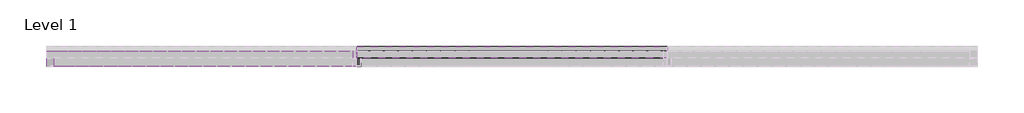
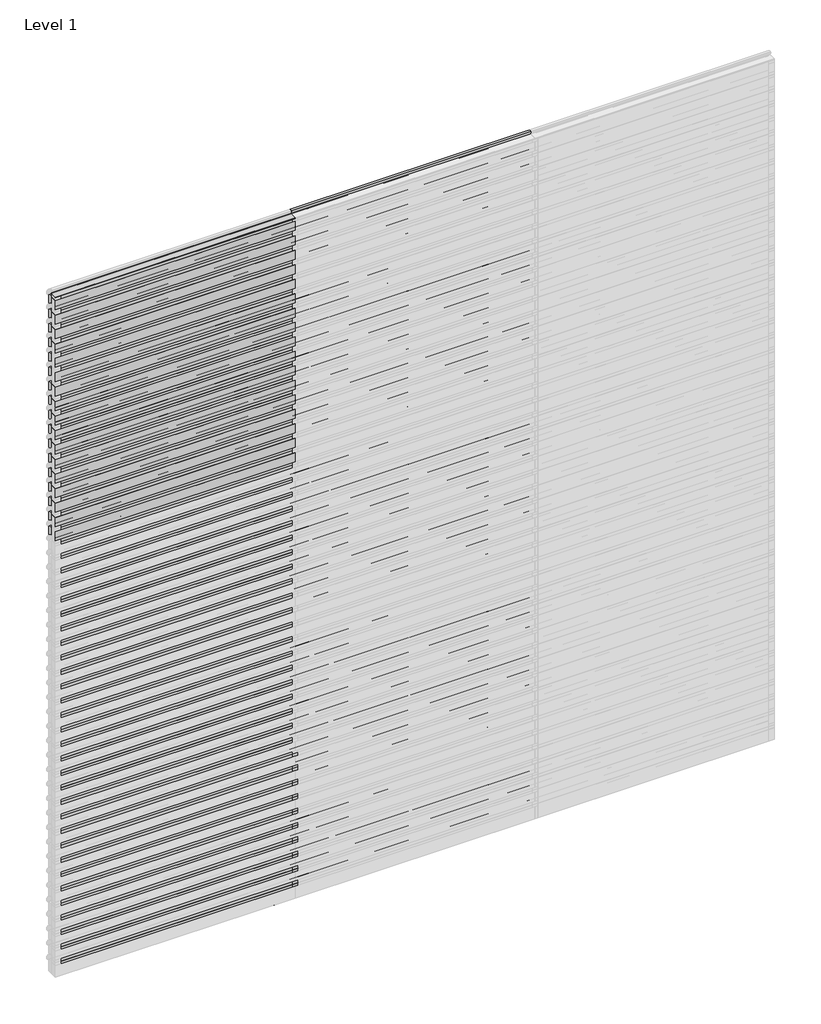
# One storey, part 2 of 5: 65 plates, 57 members.
"""IFC4 building model written with IfcOpenShell, lengths in millimetres."""

from ifc_helpers import new_model, si_unit, origin, place, context, project, spatial, transform, mapped, element, save
from components import rectangular_mullion_d23d7044, rectangular_mullion_172e3795, empty_system_panel_empty_a5cbaad0, empty_system_panel_empty_3140acd4, empty_system_panel_empty_c620d78e

model = new_model("IFC4")

# Units and contexts
model_context = context("Model", 3, world=origin())
ifc_project = project(units=[si_unit("LENGTHUNIT", "METRE", prefix="MILLI")], contexts=[model_context])

# Site, building, storey
site = spatial("IfcSite", under=ifc_project)
building = spatial("IfcBuilding", under=site)
storey = spatial("IfcBuildingStorey", under=building, Name="Level 1", Elevation=0.0)

# Members
placement = place(None, origin())
rectangular_mullion_shape = rectangular_mullion_d23d7044(model_context)
element("IfcMember", 1, ObjectType="Rectangular Mullion : RSen_21_CWM_blade - 100 D_gen_duco projects", at=placement, inside=storey, context=model_context, shape_type="MappedRepresentation", body=[
    mapped(rectangular_mullion_shape, transform((2000.0, 3000.0, 127.5), x_axis=(0.0, 0.0, 1.0), y_axis=(0.0, 1.0, 0.0), z_axis=(-1.0, 0.0, 0.0))),
])
element("IfcMember", 2, ObjectType="Rectangular Mullion : RSen_21_CWM_blade - 100 D_gen_duco projects", at=placement, inside=storey, context=model_context, shape_type="MappedRepresentation", body=[
    mapped(rectangular_mullion_shape, transform((2000.0, 3000.0, 255.0), x_axis=(0.0, 0.0, 1.0), y_axis=(0.0, 1.0, 0.0), z_axis=(-1.0, 0.0, 0.0))),
])
element("IfcMember", 3, ObjectType="Rectangular Mullion : RSen_21_CWM_blade - 100 D_gen_duco projects", at=placement, inside=storey, context=model_context, shape_type="MappedRepresentation", body=[
    mapped(rectangular_mullion_shape, transform((2000.0, 3000.0, 382.5), x_axis=(0.0, 0.0, 1.0), y_axis=(0.0, 1.0, 0.0), z_axis=(-1.0, 0.0, 0.0))),
])
element("IfcMember", 4, ObjectType="Rectangular Mullion : RSen_21_CWM_blade - 100 D_gen_duco projects", at=placement, inside=storey, context=model_context, shape_type="MappedRepresentation", body=[
    mapped(rectangular_mullion_shape, transform((2000.0, 3000.0, 510.0), x_axis=(0.0, 0.0, 1.0), y_axis=(0.0, 1.0, 0.0), z_axis=(-1.0, 0.0, 0.0))),
])
element("IfcMember", 5, ObjectType="Rectangular Mullion : RSen_21_CWM_blade - 100 D_gen_duco projects", at=placement, inside=storey, context=model_context, shape_type="MappedRepresentation", body=[
    mapped(rectangular_mullion_shape, transform((2000.0, 3000.0, 637.5), x_axis=(0.0, 0.0, 1.0), y_axis=(0.0, 1.0, 0.0), z_axis=(-1.0, 0.0, 0.0))),
])
element("IfcMember", 6, ObjectType="Rectangular Mullion : RSen_21_CWM_blade - 100 D_gen_duco projects", at=placement, inside=storey, context=model_context, shape_type="MappedRepresentation", body=[
    mapped(rectangular_mullion_shape, transform((2000.0, 3000.0, 765.0), x_axis=(0.0, 0.0, 1.0), y_axis=(0.0, 1.0, 0.0), z_axis=(-1.0, 0.0, 0.0))),
])
element("IfcMember", 7, ObjectType="Rectangular Mullion : RSen_21_CWM_blade - 100 D_gen_duco projects", at=placement, inside=storey, context=model_context, shape_type="MappedRepresentation", body=[
    mapped(rectangular_mullion_shape, transform((2000.0, 3000.0, 892.5), x_axis=(0.0, 0.0, 1.0), y_axis=(0.0, 1.0, 0.0), z_axis=(-1.0, 0.0, 0.0))),
])
element("IfcMember", 8, ObjectType="Rectangular Mullion : RSen_21_CWM_blade - 100 D_gen_duco projects", at=placement, inside=storey, context=model_context, shape_type="MappedRepresentation", body=[
    mapped(rectangular_mullion_shape, transform((2000.0, 3000.0, 1020.0), x_axis=(0.0, 0.0, 1.0), y_axis=(0.0, 1.0, 0.0), z_axis=(-1.0, 0.0, 0.0))),
])
element("IfcMember", 9, ObjectType="Rectangular Mullion : RSen_21_CWM_blade - 100 D_gen_duco projects", at=placement, inside=storey, context=model_context, shape_type="MappedRepresentation", body=[
    mapped(rectangular_mullion_shape, transform((2000.0, 3000.0, 1147.5), x_axis=(0.0, 0.0, 1.0), y_axis=(0.0, 1.0, 0.0), z_axis=(-1.0, 0.0, 0.0))),
])
element("IfcMember", 10, ObjectType="Rectangular Mullion : RSen_21_CWM_blade - 100 D_gen_duco projects", at=placement, inside=storey, context=model_context, shape_type="MappedRepresentation", body=[
    mapped(rectangular_mullion_shape, transform((2000.0, 3000.0, 1275.0), x_axis=(0.0, 0.0, 1.0), y_axis=(0.0, 1.0, 0.0), z_axis=(-1.0, 0.0, 0.0))),
])
element("IfcMember", 11, ObjectType="Rectangular Mullion : RSen_21_CWM_blade - 100 D_gen_duco projects", at=placement, inside=storey, context=model_context, shape_type="MappedRepresentation", body=[
    mapped(rectangular_mullion_shape, transform((2000.0, 3000.0, 1402.5), x_axis=(0.0, 0.0, 1.0), y_axis=(0.0, 1.0, 0.0), z_axis=(-1.0, 0.0, 0.0))),
])
element("IfcMember", 12, ObjectType="Rectangular Mullion : RSen_21_CWM_blade - 100 D_gen_duco projects", at=placement, inside=storey, context=model_context, shape_type="MappedRepresentation", body=[
    mapped(rectangular_mullion_shape, transform((2000.0, 3000.0, 1530.0), x_axis=(0.0, 0.0, 1.0), y_axis=(0.0, 1.0, 0.0), z_axis=(-1.0, 0.0, 0.0))),
])
element("IfcMember", 13, ObjectType="Rectangular Mullion : RSen_21_CWM_blade - 100 D_gen_duco projects", at=placement, inside=storey, context=model_context, shape_type="MappedRepresentation", body=[
    mapped(rectangular_mullion_shape, transform((2000.0, 3000.0, 1657.5), x_axis=(0.0, 0.0, 1.0), y_axis=(0.0, 1.0, 0.0), z_axis=(-1.0, 0.0, 0.0))),
])
element("IfcMember", 14, ObjectType="Rectangular Mullion : RSen_21_CWM_blade - 100 D_gen_duco projects", at=placement, inside=storey, context=model_context, shape_type="MappedRepresentation", body=[
    mapped(rectangular_mullion_shape, transform((2000.0, 3000.0, 1785.0), x_axis=(0.0, 0.0, 1.0), y_axis=(0.0, 1.0, 0.0), z_axis=(-1.0, 0.0, 0.0))),
])
element("IfcMember", 15, ObjectType="Rectangular Mullion : RSen_21_CWM_blade - 100 D_gen_duco projects", at=placement, inside=storey, context=model_context, shape_type="MappedRepresentation", body=[
    mapped(rectangular_mullion_shape, transform((2000.0, 3000.0, 1912.5), x_axis=(0.0, 0.0, 1.0), y_axis=(0.0, 1.0, 0.0), z_axis=(-1.0, 0.0, 0.0))),
])
element("IfcMember", 16, ObjectType="Rectangular Mullion : RSen_21_CWM_blade - 100 D_gen_duco projects", at=placement, inside=storey, context=model_context, shape_type="MappedRepresentation", body=[
    mapped(rectangular_mullion_shape, transform((2000.0, 3000.0, 2040.0), x_axis=(0.0, 0.0, 1.0), y_axis=(0.0, 1.0, 0.0), z_axis=(-1.0, 0.0, 0.0))),
])
element("IfcMember", 17, ObjectType="Rectangular Mullion : RSen_21_CWM_blade - 100 D_gen_duco projects", at=placement, inside=storey, context=model_context, shape_type="MappedRepresentation", body=[
    mapped(rectangular_mullion_shape, transform((2000.0, 3000.0, 2167.5), x_axis=(0.0, 0.0, 1.0), y_axis=(0.0, 1.0, 0.0), z_axis=(-1.0, 0.0, 0.0))),
])
element("IfcMember", 18, ObjectType="Rectangular Mullion : RSen_21_CWM_blade - 100 D_gen_duco projects", at=placement, inside=storey, context=model_context, shape_type="MappedRepresentation", body=[
    mapped(rectangular_mullion_shape, transform((2000.0, 3000.0, 2295.0), x_axis=(0.0, 0.0, 1.0), y_axis=(0.0, 1.0, 0.0), z_axis=(-1.0, 0.0, 0.0))),
])
element("IfcMember", 19, ObjectType="Rectangular Mullion : RSen_21_CWM_blade - 100 D_gen_duco projects", at=placement, inside=storey, context=model_context, shape_type="MappedRepresentation", body=[
    mapped(rectangular_mullion_shape, transform((2000.0, 3000.0, 2422.5), x_axis=(0.0, 0.0, 1.0), y_axis=(0.0, 1.0, 0.0), z_axis=(-1.0, 0.0, 0.0))),
])
element("IfcMember", 20, ObjectType="Rectangular Mullion : RSen_21_CWM_blade - 100 D_gen_duco projects", at=placement, inside=storey, context=model_context, shape_type="MappedRepresentation", body=[
    mapped(rectangular_mullion_shape, transform((2000.0, 3000.0, 2550.0), x_axis=(0.0, 0.0, 1.0), y_axis=(0.0, 1.0, 0.0), z_axis=(-1.0, 0.0, 0.0))),
])
element("IfcMember", 21, ObjectType="Rectangular Mullion : RSen_21_CWM_blade - 100 D_gen_duco projects", at=placement, inside=storey, context=model_context, shape_type="MappedRepresentation", body=[
    mapped(rectangular_mullion_shape, transform((2000.0, 3000.0, 2677.5), x_axis=(0.0, 0.0, 1.0), y_axis=(0.0, 1.0, 0.0), z_axis=(-1.0, 0.0, 0.0))),
])
element("IfcMember", 22, ObjectType="Rectangular Mullion : RSen_21_CWM_blade - 100 D_gen_duco projects", at=placement, inside=storey, context=model_context, shape_type="MappedRepresentation", body=[
    mapped(rectangular_mullion_shape, transform((2000.0, 3000.0, 2805.0), x_axis=(0.0, 0.0, 1.0), y_axis=(0.0, 1.0, 0.0), z_axis=(-1.0, 0.0, 0.0))),
])
element("IfcMember", 23, ObjectType="Rectangular Mullion : RSen_21_CWM_blade - 100 D_gen_duco projects", at=placement, inside=storey, context=model_context, shape_type="MappedRepresentation", body=[
    mapped(rectangular_mullion_shape, transform((2000.0, 3000.0, 2932.5), x_axis=(0.0, 0.0, 1.0), y_axis=(0.0, 1.0, 0.0), z_axis=(-1.0, 0.0, 0.0))),
])
element("IfcMember", 24, ObjectType="Rectangular Mullion : RSen_21_CWM_blade - 100 D_gen_duco projects", at=placement, inside=storey, context=model_context, shape_type="MappedRepresentation", body=[
    mapped(rectangular_mullion_shape, transform((2000.0, 3000.0, 3060.0), x_axis=(0.0, 0.0, 1.0), y_axis=(0.0, 1.0, 0.0), z_axis=(-1.0, 0.0, 0.0))),
])
element("IfcMember", 25, ObjectType="Rectangular Mullion : RSen_21_CWM_blade - 100 D_gen_duco projects", at=placement, inside=storey, context=model_context, shape_type="MappedRepresentation", body=[
    mapped(rectangular_mullion_shape, transform((2000.0, 3000.0, 3187.5), x_axis=(0.0, 0.0, 1.0), y_axis=(0.0, 1.0, 0.0), z_axis=(-1.0, 0.0, 0.0))),
])
element("IfcMember", 26, ObjectType="Rectangular Mullion : RSen_21_CWM_blade - 100 D_gen_duco projects", at=placement, inside=storey, context=model_context, shape_type="MappedRepresentation", body=[
    mapped(rectangular_mullion_shape, transform((2000.0, 3000.0, 3315.0), x_axis=(0.0, 0.0, 1.0), y_axis=(0.0, 1.0, 0.0), z_axis=(-1.0, 0.0, 0.0))),
])
element("IfcMember", 27, ObjectType="Rectangular Mullion : RSen_21_CWM_blade - 100 D_gen_duco projects", at=placement, inside=storey, context=model_context, shape_type="MappedRepresentation", body=[
    mapped(rectangular_mullion_shape, transform((2000.0, 3000.0, 3442.5), x_axis=(0.0, 0.0, 1.0), y_axis=(0.0, 1.0, 0.0), z_axis=(-1.0, 0.0, 0.0))),
])
element("IfcMember", 28, ObjectType="Rectangular Mullion : RSen_21_CWM_blade - 100 D_gen_duco projects", at=placement, inside=storey, context=model_context, shape_type="MappedRepresentation", body=[
    mapped(rectangular_mullion_shape, transform((2000.0, 3000.0, 3570.0), x_axis=(0.0, 0.0, 1.0), y_axis=(0.0, 1.0, 0.0), z_axis=(-1.0, 0.0, 0.0))),
])
element("IfcMember", 29, ObjectType="Rectangular Mullion : RSen_21_CWM_blade - 100 D_gen_duco projects", at=placement, inside=storey, context=model_context, shape_type="MappedRepresentation", body=[
    mapped(rectangular_mullion_shape, transform((2000.0, 3000.0, 3697.5), x_axis=(0.0, 0.0, 1.0), y_axis=(0.0, 1.0, 0.0), z_axis=(-1.0, 0.0, 0.0))),
])
element("IfcMember", 30, ObjectType="Rectangular Mullion : RSen_21_CWM_blade - 100 D_gen_duco projects", at=placement, inside=storey, context=model_context, shape_type="MappedRepresentation", body=[
    mapped(rectangular_mullion_shape, transform((2000.0, 3000.0, 3825.0), x_axis=(0.0, 0.0, 1.0), y_axis=(0.0, 1.0, 0.0), z_axis=(-1.0, 0.0, 0.0))),
])
element("IfcMember", 31, ObjectType="Rectangular Mullion : RSen_21_CWM_blade - 100 D_gen_duco projects", at=placement, inside=storey, context=model_context, shape_type="MappedRepresentation", body=[
    mapped(rectangular_mullion_shape, transform((2000.0, 3000.0, 3952.5), x_axis=(0.0, 0.0, 1.0), y_axis=(0.0, 1.0, 0.0), z_axis=(-1.0, 0.0, 0.0))),
])
element("IfcMember", 32, ObjectType="Rectangular Mullion : RSen_21_CWM_blade - 100 D_gen_duco projects", at=placement, inside=storey, context=model_context, shape_type="MappedRepresentation", body=[
    mapped(rectangular_mullion_shape, transform((2000.0, 3000.0, 4080.0), x_axis=(0.0, 0.0, 1.0), y_axis=(0.0, 1.0, 0.0), z_axis=(-1.0, 0.0, 0.0))),
])
element("IfcMember", 33, ObjectType="Rectangular Mullion : RSen_21_CWM_blade - 100 D_gen_duco projects", at=placement, inside=storey, context=model_context, shape_type="MappedRepresentation", body=[
    mapped(rectangular_mullion_shape, transform((2000.0, 3000.0, 4207.5), x_axis=(0.0, 0.0, 1.0), y_axis=(0.0, 1.0, 0.0), z_axis=(-1.0, 0.0, 0.0))),
])
element("IfcMember", 34, ObjectType="Rectangular Mullion : RSen_21_CWM_blade - 100 D_gen_duco projects", at=placement, inside=storey, context=model_context, shape_type="MappedRepresentation", body=[
    mapped(rectangular_mullion_shape, transform((2000.0, 3000.0, 4335.0), x_axis=(0.0, 0.0, 1.0), y_axis=(0.0, 1.0, 0.0), z_axis=(-1.0, 0.0, 0.0))),
])
element("IfcMember", 35, ObjectType="Rectangular Mullion : RSen_21_CWM_blade - 100 D_gen_duco projects", at=placement, inside=storey, context=model_context, shape_type="MappedRepresentation", body=[
    mapped(rectangular_mullion_shape, transform((2000.0, 3000.0, 4462.5), x_axis=(0.0, 0.0, 1.0), y_axis=(0.0, 1.0, 0.0), z_axis=(-1.0, 0.0, 0.0))),
])
element("IfcMember", 36, ObjectType="Rectangular Mullion : RSen_21_CWM_blade - 100 D_gen_duco projects", at=placement, inside=storey, context=model_context, shape_type="MappedRepresentation", body=[
    mapped(rectangular_mullion_shape, transform((2000.0, 3000.0, 4590.0), x_axis=(0.0, 0.0, 1.0), y_axis=(0.0, 1.0, 0.0), z_axis=(-1.0, 0.0, 0.0))),
])
element("IfcMember", 37, ObjectType="Rectangular Mullion : RSen_21_CWM_blade - 100 D_gen_duco projects", at=placement, inside=storey, context=model_context, shape_type="MappedRepresentation", body=[
    mapped(rectangular_mullion_shape, transform((2000.0, 3000.0, 4717.5), x_axis=(0.0, 0.0, 1.0), y_axis=(0.0, 1.0, 0.0), z_axis=(-1.0, 0.0, 0.0))),
])
element("IfcMember", 38, ObjectType="Rectangular Mullion : RSen_21_CWM_blade - 100 D_gen_duco projects", at=placement, inside=storey, context=model_context, shape_type="MappedRepresentation", body=[
    mapped(rectangular_mullion_shape, transform((2000.0, 3000.0, 4845.0), x_axis=(0.0, 0.0, 1.0), y_axis=(0.0, 1.0, 0.0), z_axis=(-1.0, 0.0, 0.0))),
])
element("IfcMember", 39, ObjectType="Rectangular Mullion : RSen_21_CWM_blade - 100 D_gen_duco projects", at=placement, inside=storey, context=model_context, shape_type="MappedRepresentation", body=[
    mapped(rectangular_mullion_shape, transform((2000.0, 3000.0, 4972.5), x_axis=(0.0, 0.0, 1.0), y_axis=(0.0, 1.0, 0.0), z_axis=(-1.0, 0.0, 0.0))),
])
element("IfcMember", 40, ObjectType="Rectangular Mullion : RSen_21_CWM_blade - 100 D_gen_duco projects", at=placement, inside=storey, context=model_context, shape_type="MappedRepresentation", body=[
    mapped(rectangular_mullion_shape, transform((2000.0, 3000.0, 5100.0), x_axis=(0.0, 0.0, 1.0), y_axis=(0.0, 1.0, 0.0), z_axis=(-1.0, 0.0, 0.0))),
])
element("IfcMember", 41, ObjectType="Rectangular Mullion : RSen_21_CWM_blade - 100 D_gen_duco projects", at=placement, inside=storey, context=model_context, shape_type="MappedRepresentation", body=[
    mapped(rectangular_mullion_shape, transform((2000.0, 3000.0, 5227.5), x_axis=(0.0, 0.0, 1.0), y_axis=(0.0, 1.0, 0.0), z_axis=(-1.0, 0.0, 0.0))),
])
element("IfcMember", 42, ObjectType="Rectangular Mullion : RSen_21_CWM_blade - 100 D_gen_duco projects", at=placement, inside=storey, context=model_context, shape_type="MappedRepresentation", body=[
    mapped(rectangular_mullion_shape, transform((2000.0, 3000.0, 5355.0), x_axis=(0.0, 0.0, 1.0), y_axis=(0.0, 1.0, 0.0), z_axis=(-1.0, 0.0, 0.0))),
])
element("IfcMember", 43, ObjectType="Rectangular Mullion : RSen_21_CWM_blade - 100 D_gen_duco projects", at=placement, inside=storey, context=model_context, shape_type="MappedRepresentation", body=[
    mapped(rectangular_mullion_shape, transform((2000.0, 3000.0, 5482.5), x_axis=(0.0, 0.0, 1.0), y_axis=(0.0, 1.0, 0.0), z_axis=(-1.0, 0.0, 0.0))),
])
element("IfcMember", 44, ObjectType="Rectangular Mullion : RSen_21_CWM_blade - 100 D_gen_duco projects", at=placement, inside=storey, context=model_context, shape_type="MappedRepresentation", body=[
    mapped(rectangular_mullion_shape, transform((2000.0, 3000.0, 5610.0), x_axis=(0.0, 0.0, 1.0), y_axis=(0.0, 1.0, 0.0), z_axis=(-1.0, 0.0, 0.0))),
])
element("IfcMember", 45, ObjectType="Rectangular Mullion : RSen_21_CWM_blade - 100 D_gen_duco projects", at=placement, inside=storey, context=model_context, shape_type="MappedRepresentation", body=[
    mapped(rectangular_mullion_shape, transform((2000.0, 3000.0, 5737.5), x_axis=(0.0, 0.0, 1.0), y_axis=(0.0, 1.0, 0.0), z_axis=(-1.0, 0.0, 0.0))),
])
element("IfcMember", 46, ObjectType="Rectangular Mullion : RSen_21_CWM_blade - 100 D_gen_duco projects", at=placement, inside=storey, context=model_context, shape_type="MappedRepresentation", body=[
    mapped(rectangular_mullion_shape, transform((2000.0, 3000.0, 5865.0), x_axis=(0.0, 0.0, 1.0), y_axis=(0.0, 1.0, 0.0), z_axis=(-1.0, 0.0, 0.0))),
])
element("IfcMember", 47, ObjectType="Rectangular Mullion : RSen_21_CWM_blade - 100 D_gen_duco projects", at=placement, inside=storey, context=model_context, shape_type="MappedRepresentation", body=[
    mapped(rectangular_mullion_shape, transform((2000.0, 3000.0, 5992.5), x_axis=(0.0, 0.0, 1.0), y_axis=(0.0, 1.0, 0.0), z_axis=(-1.0, 0.0, 0.0))),
])
rectangular_mullion_2_shape = rectangular_mullion_172e3795(model_context)
element("IfcMember", 48, ObjectType="Rectangular Mullion : RSen_21_CWM_support profile 50x50_gen_duco projects", at=placement, inside=storey, context=model_context, shape_type="MappedRepresentation", body=[
    mapped(rectangular_mullion_2_shape, transform((2000.0, 3000.0, 0.0), x_axis=(-1.0, 0.0, 0.0), y_axis=(0.0, 1.0, 0.0), z_axis=(0.0, 0.0, -1.0))),
])
element("IfcMember", 49, ObjectType="Rectangular Mullion : RSen_21_CWM_support profile 50x50_gen_duco projects", at=placement, inside=storey, context=model_context, shape_type="MappedRepresentation", body=[
    mapped(rectangular_mullion_2_shape, transform((2000.0, 3000.0, 127.5), x_axis=(-1.0, 0.0, 0.0), y_axis=(0.0, 1.0, 0.0), z_axis=(0.0, 0.0, -1.0))),
])
element("IfcMember", 50, ObjectType="Rectangular Mullion : RSen_21_CWM_support profile 50x50_gen_duco projects", at=placement, inside=storey, context=model_context, shape_type="MappedRepresentation", body=[
    mapped(rectangular_mullion_2_shape, transform((2000.0, 3000.0, 255.0), x_axis=(-1.0, 0.0, 0.0), y_axis=(0.0, 1.0, 0.0), z_axis=(0.0, 0.0, -1.0))),
])
element("IfcMember", 51, ObjectType="Rectangular Mullion : RSen_21_CWM_support profile 50x50_gen_duco projects", at=placement, inside=storey, context=model_context, shape_type="MappedRepresentation", body=[
    mapped(rectangular_mullion_2_shape, transform((2000.0, 3000.0, 382.5), x_axis=(-1.0, 0.0, 0.0), y_axis=(0.0, 1.0, 0.0), z_axis=(0.0, 0.0, -1.0))),
])
element("IfcMember", 52, ObjectType="Rectangular Mullion : RSen_21_CWM_support profile 50x50_gen_duco projects", at=placement, inside=storey, context=model_context, shape_type="MappedRepresentation", body=[
    mapped(rectangular_mullion_2_shape, transform((2000.0, 3000.0, 510.0), x_axis=(-1.0, 0.0, 0.0), y_axis=(0.0, 1.0, 0.0), z_axis=(0.0, 0.0, -1.0))),
])
element("IfcMember", 53, ObjectType="Rectangular Mullion : RSen_21_CWM_support profile 50x50_gen_duco projects", at=placement, inside=storey, context=model_context, shape_type="MappedRepresentation", body=[
    mapped(rectangular_mullion_2_shape, transform((2000.0, 3000.0, 637.5), x_axis=(-1.0, 0.0, 0.0), y_axis=(0.0, 1.0, 0.0), z_axis=(0.0, 0.0, -1.0))),
])
element("IfcMember", 54, ObjectType="Rectangular Mullion : RSen_21_CWM_support profile 50x50_gen_duco projects", at=placement, inside=storey, context=model_context, shape_type="MappedRepresentation", body=[
    mapped(rectangular_mullion_2_shape, transform((2000.0, 3000.0, 765.0), x_axis=(-1.0, 0.0, 0.0), y_axis=(0.0, 1.0, 0.0), z_axis=(0.0, 0.0, -1.0))),
])
element("IfcMember", 55, ObjectType="Rectangular Mullion : RSen_21_CWM_support profile 50x50_gen_duco projects", at=placement, inside=storey, context=model_context, shape_type="MappedRepresentation", body=[
    mapped(rectangular_mullion_2_shape, transform((2000.0, 3000.0, 892.5), x_axis=(-1.0, 0.0, 0.0), y_axis=(0.0, 1.0, 0.0), z_axis=(0.0, 0.0, -1.0))),
])
element("IfcMember", 56, ObjectType="Rectangular Mullion : RSen_21_CWM_support profile 50x50_gen_duco projects", at=placement, inside=storey, context=model_context, shape_type="MappedRepresentation", body=[
    mapped(rectangular_mullion_2_shape, transform((2000.0, 3000.0, 1020.0), x_axis=(-1.0, 0.0, 0.0), y_axis=(0.0, 1.0, 0.0), z_axis=(0.0, 0.0, -1.0))),
])
element("IfcMember", 57, ObjectType="Rectangular Mullion : RSen_21_CWM_support profile 50x50_gen_duco projects", at=placement, inside=storey, context=model_context, shape_type="MappedRepresentation", body=[
    mapped(rectangular_mullion_2_shape, transform((2000.0, 3000.0, 1147.5), x_axis=(-1.0, 0.0, 0.0), y_axis=(0.0, 1.0, 0.0), z_axis=(0.0, 0.0, -1.0))),
])

# Plates
empty_system_panel_empty_shape = empty_system_panel_empty_a5cbaad0(model_context)
element("IfcPlate", 58, ObjectType="Empty System Panel : Empty", at=placement, inside=storey, context=model_context, shape_type="MappedRepresentation", body=[
    mapped(empty_system_panel_empty_shape, transform((1000.0, 3000.0, 3849.0416306), x_axis=(-1.0, 0.0, 0.0), y_axis=(0.0, -1.0, 0.0), z_axis=(0.0, 0.0, 1.0))),
])
element("IfcPlate", 59, ObjectType="Empty System Panel : Empty", at=placement, inside=storey, context=model_context, shape_type="MappedRepresentation", body=[
    mapped(empty_system_panel_empty_shape, transform((1000.0, 3000.0, 3976.5416306), x_axis=(-1.0, 0.0, 0.0), y_axis=(0.0, -1.0, 0.0), z_axis=(0.0, 0.0, 1.0))),
])
element("IfcPlate", 60, ObjectType="Empty System Panel : Empty", at=placement, inside=storey, context=model_context, shape_type="MappedRepresentation", body=[
    mapped(empty_system_panel_empty_shape, transform((1000.0, 3000.0, 4104.0416306), x_axis=(-1.0, 0.0, 0.0), y_axis=(0.0, -1.0, 0.0), z_axis=(0.0, 0.0, 1.0))),
])
element("IfcPlate", 61, ObjectType="Empty System Panel : Empty", at=placement, inside=storey, context=model_context, shape_type="MappedRepresentation", body=[
    mapped(empty_system_panel_empty_shape, transform((1000.0, 3000.0, 4231.5416306), x_axis=(-1.0, 0.0, 0.0), y_axis=(0.0, -1.0, 0.0), z_axis=(0.0, 0.0, 1.0))),
])
element("IfcPlate", 62, ObjectType="Empty System Panel : Empty", at=placement, inside=storey, context=model_context, shape_type="MappedRepresentation", body=[
    mapped(empty_system_panel_empty_shape, transform((1000.0, 3000.0, 4359.0416306), x_axis=(-1.0, 0.0, 0.0), y_axis=(0.0, -1.0, 0.0), z_axis=(0.0, 0.0, 1.0))),
])
element("IfcPlate", 63, ObjectType="Empty System Panel : Empty", at=placement, inside=storey, context=model_context, shape_type="MappedRepresentation", body=[
    mapped(empty_system_panel_empty_shape, transform((1000.0, 3000.0, 4486.5416306), x_axis=(-1.0, 0.0, 0.0), y_axis=(0.0, -1.0, 0.0), z_axis=(0.0, 0.0, 1.0))),
])
element("IfcPlate", 64, ObjectType="Empty System Panel : Empty", at=placement, inside=storey, context=model_context, shape_type="MappedRepresentation", body=[
    mapped(empty_system_panel_empty_shape, transform((1000.0, 3000.0, 4614.0416306), x_axis=(-1.0, 0.0, 0.0), y_axis=(0.0, -1.0, 0.0), z_axis=(0.0, 0.0, 1.0))),
])
element("IfcPlate", 65, ObjectType="Empty System Panel : Empty", at=placement, inside=storey, context=model_context, shape_type="MappedRepresentation", body=[
    mapped(empty_system_panel_empty_shape, transform((1000.0, 3000.0, 4741.5416306), x_axis=(-1.0, 0.0, 0.0), y_axis=(0.0, -1.0, 0.0), z_axis=(0.0, 0.0, 1.0))),
])
element("IfcPlate", 66, ObjectType="Empty System Panel : Empty", at=placement, inside=storey, context=model_context, shape_type="MappedRepresentation", body=[
    mapped(empty_system_panel_empty_shape, transform((1000.0, 3000.0, 4869.0416306), x_axis=(-1.0, 0.0, 0.0), y_axis=(0.0, -1.0, 0.0), z_axis=(0.0, 0.0, 1.0))),
])
element("IfcPlate", 67, ObjectType="Empty System Panel : Empty", at=placement, inside=storey, context=model_context, shape_type="MappedRepresentation", body=[
    mapped(empty_system_panel_empty_shape, transform((1000.0, 3000.0, 4996.5416306), x_axis=(-1.0, 0.0, 0.0), y_axis=(0.0, -1.0, 0.0), z_axis=(0.0, 0.0, 1.0))),
])
element("IfcPlate", 68, ObjectType="Empty System Panel : Empty", at=placement, inside=storey, context=model_context, shape_type="MappedRepresentation", body=[
    mapped(empty_system_panel_empty_shape, transform((1000.0, 3000.0, 5124.0416306), x_axis=(-1.0, 0.0, 0.0), y_axis=(0.0, -1.0, 0.0), z_axis=(0.0, 0.0, 1.0))),
])
element("IfcPlate", 69, ObjectType="Empty System Panel : Empty", at=placement, inside=storey, context=model_context, shape_type="MappedRepresentation", body=[
    mapped(empty_system_panel_empty_shape, transform((1000.0, 3000.0, 5251.5416306), x_axis=(-1.0, 0.0, 0.0), y_axis=(0.0, -1.0, 0.0), z_axis=(0.0, 0.0, 1.0))),
])
element("IfcPlate", 70, ObjectType="Empty System Panel : Empty", at=placement, inside=storey, context=model_context, shape_type="MappedRepresentation", body=[
    mapped(empty_system_panel_empty_shape, transform((1000.0, 3000.0, 5379.0416306), x_axis=(-1.0, 0.0, 0.0), y_axis=(0.0, -1.0, 0.0), z_axis=(0.0, 0.0, 1.0))),
])
element("IfcPlate", 71, ObjectType="Empty System Panel : Empty", at=placement, inside=storey, context=model_context, shape_type="MappedRepresentation", body=[
    mapped(empty_system_panel_empty_shape, transform((1000.0, 3000.0, 5506.5416306), x_axis=(-1.0, 0.0, 0.0), y_axis=(0.0, -1.0, 0.0), z_axis=(0.0, 0.0, 1.0))),
])
element("IfcPlate", 72, ObjectType="Empty System Panel : Empty", at=placement, inside=storey, context=model_context, shape_type="MappedRepresentation", body=[
    mapped(empty_system_panel_empty_shape, transform((1000.0, 3000.0, 5634.0416306), x_axis=(-1.0, 0.0, 0.0), y_axis=(0.0, -1.0, 0.0), z_axis=(0.0, 0.0, 1.0))),
])
element("IfcPlate", 73, ObjectType="Empty System Panel : Empty", at=placement, inside=storey, context=model_context, shape_type="MappedRepresentation", body=[
    mapped(empty_system_panel_empty_shape, transform((1000.0, 3000.0, 5761.5416306), x_axis=(-1.0, 0.0, 0.0), y_axis=(0.0, -1.0, 0.0), z_axis=(0.0, 0.0, 1.0))),
])
element("IfcPlate", 74, ObjectType="Empty System Panel : Empty", at=placement, inside=storey, context=model_context, shape_type="MappedRepresentation", body=[
    mapped(empty_system_panel_empty_shape, transform((1000.0, 3000.0, 5889.0416306), x_axis=(-1.0, 0.0, 0.0), y_axis=(0.0, -1.0, 0.0), z_axis=(0.0, 0.0, 1.0))),
])
empty_system_panel_empty_2_shape = empty_system_panel_empty_3140acd4(model_context)
element("IfcPlate", 75, ObjectType="Empty System Panel : Empty", at=placement, inside=storey, context=model_context, shape_type="MappedRepresentation", body=[
    mapped(empty_system_panel_empty_2_shape, transform((1012.5, 3000.0, 0.0), x_axis=(-1.0, 0.0, 0.0), y_axis=(0.0, -1.0, 0.0), z_axis=(0.0, 0.0, 1.0))),
])
element("IfcPlate", 76, ObjectType="Empty System Panel : Empty", at=placement, inside=storey, context=model_context, shape_type="MappedRepresentation", body=[
    mapped(empty_system_panel_empty_2_shape, transform((1012.5, 3000.0, 127.5), x_axis=(-1.0, 0.0, 0.0), y_axis=(0.0, -1.0, 0.0), z_axis=(0.0, 0.0, 1.0))),
])
element("IfcPlate", 77, ObjectType="Empty System Panel : Empty", at=placement, inside=storey, context=model_context, shape_type="MappedRepresentation", body=[
    mapped(empty_system_panel_empty_2_shape, transform((1012.5, 3000.0, 255.0), x_axis=(-1.0, 0.0, 0.0), y_axis=(0.0, -1.0, 0.0), z_axis=(0.0, 0.0, 1.0))),
])
element("IfcPlate", 78, ObjectType="Empty System Panel : Empty", at=placement, inside=storey, context=model_context, shape_type="MappedRepresentation", body=[
    mapped(empty_system_panel_empty_2_shape, transform((1012.5, 3000.0, 382.5), x_axis=(-1.0, 0.0, 0.0), y_axis=(0.0, -1.0, 0.0), z_axis=(0.0, 0.0, 1.0))),
])
element("IfcPlate", 79, ObjectType="Empty System Panel : Empty", at=placement, inside=storey, context=model_context, shape_type="MappedRepresentation", body=[
    mapped(empty_system_panel_empty_2_shape, transform((1012.5, 3000.0, 510.0), x_axis=(-1.0, 0.0, 0.0), y_axis=(0.0, -1.0, 0.0), z_axis=(0.0, 0.0, 1.0))),
])
element("IfcPlate", 80, ObjectType="Empty System Panel : Empty", at=placement, inside=storey, context=model_context, shape_type="MappedRepresentation", body=[
    mapped(empty_system_panel_empty_2_shape, transform((1012.5, 3000.0, 637.5), x_axis=(-1.0, 0.0, 0.0), y_axis=(0.0, -1.0, 0.0), z_axis=(0.0, 0.0, 1.0))),
])
element("IfcPlate", 81, ObjectType="Empty System Panel : Empty", at=placement, inside=storey, context=model_context, shape_type="MappedRepresentation", body=[
    mapped(empty_system_panel_empty_2_shape, transform((1012.5, 3000.0, 765.0), x_axis=(-1.0, 0.0, 0.0), y_axis=(0.0, -1.0, 0.0), z_axis=(0.0, 0.0, 1.0))),
])
element("IfcPlate", 82, ObjectType="Empty System Panel : Empty", at=placement, inside=storey, context=model_context, shape_type="MappedRepresentation", body=[
    mapped(empty_system_panel_empty_2_shape, transform((1012.5, 3000.0, 892.5), x_axis=(-1.0, 0.0, 0.0), y_axis=(0.0, -1.0, 0.0), z_axis=(0.0, 0.0, 1.0))),
])
element("IfcPlate", 83, ObjectType="Empty System Panel : Empty", at=placement, inside=storey, context=model_context, shape_type="MappedRepresentation", body=[
    mapped(empty_system_panel_empty_2_shape, transform((1012.5, 3000.0, 1020.0), x_axis=(-1.0, 0.0, 0.0), y_axis=(0.0, -1.0, 0.0), z_axis=(0.0, 0.0, 1.0))),
])
element("IfcPlate", 84, ObjectType="Empty System Panel : Empty", at=placement, inside=storey, context=model_context, shape_type="MappedRepresentation", body=[
    mapped(empty_system_panel_empty_2_shape, transform((1012.5, 3000.0, 1147.5), x_axis=(-1.0, 0.0, 0.0), y_axis=(0.0, -1.0, 0.0), z_axis=(0.0, 0.0, 1.0))),
])
element("IfcPlate", 85, ObjectType="Empty System Panel : Empty", at=placement, inside=storey, context=model_context, shape_type="MappedRepresentation", body=[
    mapped(empty_system_panel_empty_2_shape, transform((1012.5, 3000.0, 1275.0), x_axis=(-1.0, 0.0, 0.0), y_axis=(0.0, -1.0, 0.0), z_axis=(0.0, 0.0, 1.0))),
])
element("IfcPlate", 86, ObjectType="Empty System Panel : Empty", at=placement, inside=storey, context=model_context, shape_type="MappedRepresentation", body=[
    mapped(empty_system_panel_empty_2_shape, transform((1012.5, 3000.0, 1402.5), x_axis=(-1.0, 0.0, 0.0), y_axis=(0.0, -1.0, 0.0), z_axis=(0.0, 0.0, 1.0))),
])
element("IfcPlate", 87, ObjectType="Empty System Panel : Empty", at=placement, inside=storey, context=model_context, shape_type="MappedRepresentation", body=[
    mapped(empty_system_panel_empty_2_shape, transform((1012.5, 3000.0, 1530.0), x_axis=(-1.0, 0.0, 0.0), y_axis=(0.0, -1.0, 0.0), z_axis=(0.0, 0.0, 1.0))),
])
element("IfcPlate", 88, ObjectType="Empty System Panel : Empty", at=placement, inside=storey, context=model_context, shape_type="MappedRepresentation", body=[
    mapped(empty_system_panel_empty_2_shape, transform((1012.5, 3000.0, 1657.5), x_axis=(-1.0, 0.0, 0.0), y_axis=(0.0, -1.0, 0.0), z_axis=(0.0, 0.0, 1.0))),
])
element("IfcPlate", 89, ObjectType="Empty System Panel : Empty", at=placement, inside=storey, context=model_context, shape_type="MappedRepresentation", body=[
    mapped(empty_system_panel_empty_2_shape, transform((1012.5, 3000.0, 1785.0), x_axis=(-1.0, 0.0, 0.0), y_axis=(0.0, -1.0, 0.0), z_axis=(0.0, 0.0, 1.0))),
])
element("IfcPlate", 90, ObjectType="Empty System Panel : Empty", at=placement, inside=storey, context=model_context, shape_type="MappedRepresentation", body=[
    mapped(empty_system_panel_empty_2_shape, transform((1012.5, 3000.0, 1912.5), x_axis=(-1.0, 0.0, 0.0), y_axis=(0.0, -1.0, 0.0), z_axis=(0.0, 0.0, 1.0))),
])
element("IfcPlate", 91, ObjectType="Empty System Panel : Empty", at=placement, inside=storey, context=model_context, shape_type="MappedRepresentation", body=[
    mapped(empty_system_panel_empty_2_shape, transform((1012.5, 3000.0, 2040.0), x_axis=(-1.0, 0.0, 0.0), y_axis=(0.0, -1.0, 0.0), z_axis=(0.0, 0.0, 1.0))),
])
element("IfcPlate", 92, ObjectType="Empty System Panel : Empty", at=placement, inside=storey, context=model_context, shape_type="MappedRepresentation", body=[
    mapped(empty_system_panel_empty_2_shape, transform((1012.5, 3000.0, 2167.5), x_axis=(-1.0, 0.0, 0.0), y_axis=(0.0, -1.0, 0.0), z_axis=(0.0, 0.0, 1.0))),
])
element("IfcPlate", 93, ObjectType="Empty System Panel : Empty", at=placement, inside=storey, context=model_context, shape_type="MappedRepresentation", body=[
    mapped(empty_system_panel_empty_2_shape, transform((1012.5, 3000.0, 2295.0), x_axis=(-1.0, 0.0, 0.0), y_axis=(0.0, -1.0, 0.0), z_axis=(0.0, 0.0, 1.0))),
])
element("IfcPlate", 94, ObjectType="Empty System Panel : Empty", at=placement, inside=storey, context=model_context, shape_type="MappedRepresentation", body=[
    mapped(empty_system_panel_empty_2_shape, transform((1012.5, 3000.0, 2422.5), x_axis=(-1.0, 0.0, 0.0), y_axis=(0.0, -1.0, 0.0), z_axis=(0.0, 0.0, 1.0))),
])
element("IfcPlate", 95, ObjectType="Empty System Panel : Empty", at=placement, inside=storey, context=model_context, shape_type="MappedRepresentation", body=[
    mapped(empty_system_panel_empty_2_shape, transform((1012.5, 3000.0, 2550.0), x_axis=(-1.0, 0.0, 0.0), y_axis=(0.0, -1.0, 0.0), z_axis=(0.0, 0.0, 1.0))),
])
element("IfcPlate", 96, ObjectType="Empty System Panel : Empty", at=placement, inside=storey, context=model_context, shape_type="MappedRepresentation", body=[
    mapped(empty_system_panel_empty_2_shape, transform((1012.5, 3000.0, 2677.5), x_axis=(-1.0, 0.0, 0.0), y_axis=(0.0, -1.0, 0.0), z_axis=(0.0, 0.0, 1.0))),
])
element("IfcPlate", 97, ObjectType="Empty System Panel : Empty", at=placement, inside=storey, context=model_context, shape_type="MappedRepresentation", body=[
    mapped(empty_system_panel_empty_2_shape, transform((1012.5, 3000.0, 2805.0), x_axis=(-1.0, 0.0, 0.0), y_axis=(0.0, -1.0, 0.0), z_axis=(0.0, 0.0, 1.0))),
])
element("IfcPlate", 98, ObjectType="Empty System Panel : Empty", at=placement, inside=storey, context=model_context, shape_type="MappedRepresentation", body=[
    mapped(empty_system_panel_empty_2_shape, transform((1012.5, 3000.0, 2932.5), x_axis=(-1.0, 0.0, 0.0), y_axis=(0.0, -1.0, 0.0), z_axis=(0.0, 0.0, 1.0))),
])
element("IfcPlate", 99, ObjectType="Empty System Panel : Empty", at=placement, inside=storey, context=model_context, shape_type="MappedRepresentation", body=[
    mapped(empty_system_panel_empty_2_shape, transform((1012.5, 3000.0, 3060.0), x_axis=(-1.0, 0.0, 0.0), y_axis=(0.0, -1.0, 0.0), z_axis=(0.0, 0.0, 1.0))),
])
element("IfcPlate", 100, ObjectType="Empty System Panel : Empty", at=placement, inside=storey, context=model_context, shape_type="MappedRepresentation", body=[
    mapped(empty_system_panel_empty_2_shape, transform((1012.5, 3000.0, 3187.5), x_axis=(-1.0, 0.0, 0.0), y_axis=(0.0, -1.0, 0.0), z_axis=(0.0, 0.0, 1.0))),
])
element("IfcPlate", 101, ObjectType="Empty System Panel : Empty", at=placement, inside=storey, context=model_context, shape_type="MappedRepresentation", body=[
    mapped(empty_system_panel_empty_2_shape, transform((1012.5, 3000.0, 3315.0), x_axis=(-1.0, 0.0, 0.0), y_axis=(0.0, -1.0, 0.0), z_axis=(0.0, 0.0, 1.0))),
])
element("IfcPlate", 102, ObjectType="Empty System Panel : Empty", at=placement, inside=storey, context=model_context, shape_type="MappedRepresentation", body=[
    mapped(empty_system_panel_empty_2_shape, transform((1012.5, 3000.0, 3442.5), x_axis=(-1.0, 0.0, 0.0), y_axis=(0.0, -1.0, 0.0), z_axis=(0.0, 0.0, 1.0))),
])
element("IfcPlate", 103, ObjectType="Empty System Panel : Empty", at=placement, inside=storey, context=model_context, shape_type="MappedRepresentation", body=[
    mapped(empty_system_panel_empty_2_shape, transform((1012.5, 3000.0, 3570.0), x_axis=(-1.0, 0.0, 0.0), y_axis=(0.0, -1.0, 0.0), z_axis=(0.0, 0.0, 1.0))),
])
element("IfcPlate", 104, ObjectType="Empty System Panel : Empty", at=placement, inside=storey, context=model_context, shape_type="MappedRepresentation", body=[
    mapped(empty_system_panel_empty_2_shape, transform((1012.5, 3000.0, 3697.5), x_axis=(-1.0, 0.0, 0.0), y_axis=(0.0, -1.0, 0.0), z_axis=(0.0, 0.0, 1.0))),
])
element("IfcPlate", 105, ObjectType="Empty System Panel : Empty", at=placement, inside=storey, context=model_context, shape_type="MappedRepresentation", body=[
    mapped(empty_system_panel_empty_2_shape, transform((1012.5, 3000.0, 3825.0), x_axis=(-1.0, 0.0, 0.0), y_axis=(0.0, -1.0, 0.0), z_axis=(0.0, 0.0, 1.0))),
])
element("IfcPlate", 106, ObjectType="Empty System Panel : Empty", at=placement, inside=storey, context=model_context, shape_type="MappedRepresentation", body=[
    mapped(empty_system_panel_empty_2_shape, transform((1012.5, 3000.0, 3952.5), x_axis=(-1.0, 0.0, 0.0), y_axis=(0.0, -1.0, 0.0), z_axis=(0.0, 0.0, 1.0))),
])
element("IfcPlate", 107, ObjectType="Empty System Panel : Empty", at=placement, inside=storey, context=model_context, shape_type="MappedRepresentation", body=[
    mapped(empty_system_panel_empty_2_shape, transform((1012.5, 3000.0, 4080.0), x_axis=(-1.0, 0.0, 0.0), y_axis=(0.0, -1.0, 0.0), z_axis=(0.0, 0.0, 1.0))),
])
element("IfcPlate", 108, ObjectType="Empty System Panel : Empty", at=placement, inside=storey, context=model_context, shape_type="MappedRepresentation", body=[
    mapped(empty_system_panel_empty_2_shape, transform((1012.5, 3000.0, 4207.5), x_axis=(-1.0, 0.0, 0.0), y_axis=(0.0, -1.0, 0.0), z_axis=(0.0, 0.0, 1.0))),
])
element("IfcPlate", 109, ObjectType="Empty System Panel : Empty", at=placement, inside=storey, context=model_context, shape_type="MappedRepresentation", body=[
    mapped(empty_system_panel_empty_2_shape, transform((1012.5, 3000.0, 4335.0), x_axis=(-1.0, 0.0, 0.0), y_axis=(0.0, -1.0, 0.0), z_axis=(0.0, 0.0, 1.0))),
])
element("IfcPlate", 110, ObjectType="Empty System Panel : Empty", at=placement, inside=storey, context=model_context, shape_type="MappedRepresentation", body=[
    mapped(empty_system_panel_empty_2_shape, transform((1012.5, 3000.0, 4462.5), x_axis=(-1.0, 0.0, 0.0), y_axis=(0.0, -1.0, 0.0), z_axis=(0.0, 0.0, 1.0))),
])
element("IfcPlate", 111, ObjectType="Empty System Panel : Empty", at=placement, inside=storey, context=model_context, shape_type="MappedRepresentation", body=[
    mapped(empty_system_panel_empty_2_shape, transform((1012.5, 3000.0, 4590.0), x_axis=(-1.0, 0.0, 0.0), y_axis=(0.0, -1.0, 0.0), z_axis=(0.0, 0.0, 1.0))),
])
element("IfcPlate", 112, ObjectType="Empty System Panel : Empty", at=placement, inside=storey, context=model_context, shape_type="MappedRepresentation", body=[
    mapped(empty_system_panel_empty_2_shape, transform((1012.5, 3000.0, 4717.5), x_axis=(-1.0, 0.0, 0.0), y_axis=(0.0, -1.0, 0.0), z_axis=(0.0, 0.0, 1.0))),
])
element("IfcPlate", 113, ObjectType="Empty System Panel : Empty", at=placement, inside=storey, context=model_context, shape_type="MappedRepresentation", body=[
    mapped(empty_system_panel_empty_2_shape, transform((1012.5, 3000.0, 4845.0), x_axis=(-1.0, 0.0, 0.0), y_axis=(0.0, -1.0, 0.0), z_axis=(0.0, 0.0, 1.0))),
])
element("IfcPlate", 114, ObjectType="Empty System Panel : Empty", at=placement, inside=storey, context=model_context, shape_type="MappedRepresentation", body=[
    mapped(empty_system_panel_empty_2_shape, transform((1012.5, 3000.0, 4972.5), x_axis=(-1.0, 0.0, 0.0), y_axis=(0.0, -1.0, 0.0), z_axis=(0.0, 0.0, 1.0))),
])
element("IfcPlate", 115, ObjectType="Empty System Panel : Empty", at=placement, inside=storey, context=model_context, shape_type="MappedRepresentation", body=[
    mapped(empty_system_panel_empty_2_shape, transform((1012.5, 3000.0, 5100.0), x_axis=(-1.0, 0.0, 0.0), y_axis=(0.0, -1.0, 0.0), z_axis=(0.0, 0.0, 1.0))),
])
element("IfcPlate", 116, ObjectType="Empty System Panel : Empty", at=placement, inside=storey, context=model_context, shape_type="MappedRepresentation", body=[
    mapped(empty_system_panel_empty_2_shape, transform((1012.5, 3000.0, 5227.5), x_axis=(-1.0, 0.0, 0.0), y_axis=(0.0, -1.0, 0.0), z_axis=(0.0, 0.0, 1.0))),
])
element("IfcPlate", 117, ObjectType="Empty System Panel : Empty", at=placement, inside=storey, context=model_context, shape_type="MappedRepresentation", body=[
    mapped(empty_system_panel_empty_2_shape, transform((1012.5, 3000.0, 5355.0), x_axis=(-1.0, 0.0, 0.0), y_axis=(0.0, -1.0, 0.0), z_axis=(0.0, 0.0, 1.0))),
])
element("IfcPlate", 118, ObjectType="Empty System Panel : Empty", at=placement, inside=storey, context=model_context, shape_type="MappedRepresentation", body=[
    mapped(empty_system_panel_empty_2_shape, transform((1012.5, 3000.0, 5482.5), x_axis=(-1.0, 0.0, 0.0), y_axis=(0.0, -1.0, 0.0), z_axis=(0.0, 0.0, 1.0))),
])
element("IfcPlate", 119, ObjectType="Empty System Panel : Empty", at=placement, inside=storey, context=model_context, shape_type="MappedRepresentation", body=[
    mapped(empty_system_panel_empty_2_shape, transform((1012.5, 3000.0, 5610.0), x_axis=(-1.0, 0.0, 0.0), y_axis=(0.0, -1.0, 0.0), z_axis=(0.0, 0.0, 1.0))),
])
element("IfcPlate", 120, ObjectType="Empty System Panel : Empty", at=placement, inside=storey, context=model_context, shape_type="MappedRepresentation", body=[
    mapped(empty_system_panel_empty_2_shape, transform((1012.5, 3000.0, 5737.5), x_axis=(-1.0, 0.0, 0.0), y_axis=(0.0, -1.0, 0.0), z_axis=(0.0, 0.0, 1.0))),
])
element("IfcPlate", 121, ObjectType="Empty System Panel : Empty", at=placement, inside=storey, context=model_context, shape_type="MappedRepresentation", body=[
    mapped(empty_system_panel_empty_2_shape, transform((1012.5, 3000.0, 5865.0), x_axis=(-1.0, 0.0, 0.0), y_axis=(0.0, -1.0, 0.0), z_axis=(0.0, 0.0, 1.0))),
])
empty_system_panel_empty_3_shape = empty_system_panel_empty_c620d78e(model_context)
element("IfcPlate", 122, ObjectType="Empty System Panel : Empty", at=placement, inside=storey, context=model_context, shape_type="MappedRepresentation", body=[
    mapped(empty_system_panel_empty_3_shape, transform((1000.0, 3000.0, 5992.5), x_axis=(-1.0, 0.0, 0.0), y_axis=(0.0, -1.0, 0.0), z_axis=(0.0, 0.0, 1.0))),
])

save(model, "model.ifc")
